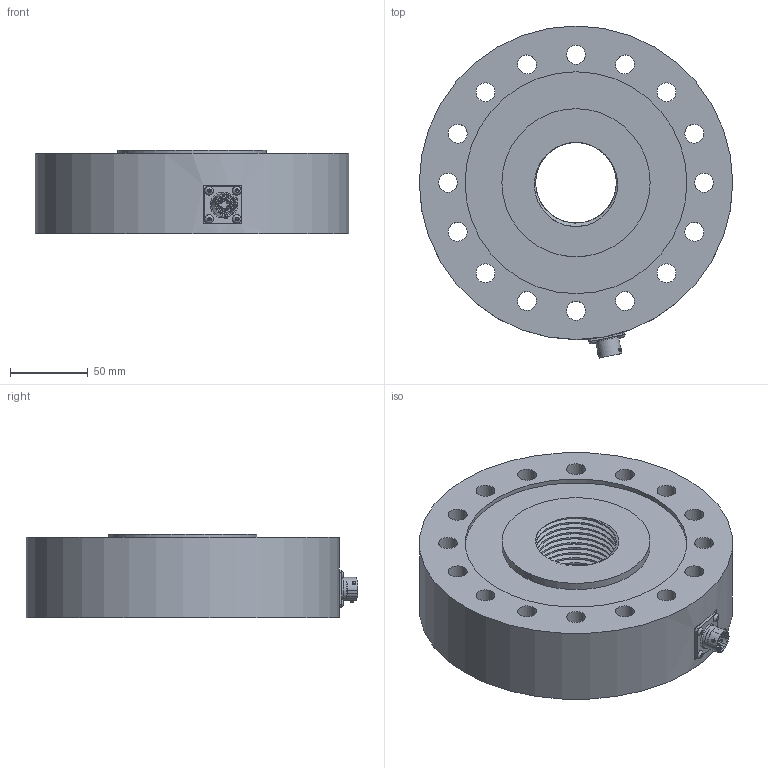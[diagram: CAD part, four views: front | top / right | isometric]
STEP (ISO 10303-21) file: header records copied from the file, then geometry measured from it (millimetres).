
FILE_DESCRIPTION(/* description */ (''),/* implementation_level */ '2;1');
FILE_NAME(/* name */ 'I:/New Datasheets/STEP Models/Pending models/DSCC8/DSCC8.step',/* time_stamp */ '2020-10-02T09:26:01+01:00',/* author */ (''),/* organization */ (''),/* preprocessor_version */ 'ST-DEVELOPER v18.1',/* originating_system */ 'Autodesk Translation Framework v9.3.0.1241',/* authorisation */ '');
FILE_SCHEMA (('AUTOMOTIVE_DESIGN { 1 0 10303 214 3 1 1 }'));
Length unit declared in the file: millimetre
Products named in the file (2): DSCC8 Body; DSCC8 
Assembly tree (1 placements, depth 2):
  DSCC8 Body
    DSCC8 
Bounding box: 202 x 213.88 x 54 mm (x, y, z)
Volume: 1362363.7 mm3; surface area: 146279.6 mm2
Topology: 1 solids, 17 shells, 584 faces, 1437 edges, 938 vertices
Faces by surface type: plane 263, cylinder 161, bspline 81, cone 37, torus 22, sphere 20
Full cylindrical faces by diameter (mm): 1 x3, 1.009 x6, 1.165 x6, 1.2 x6, 1.4 x6, 1.52 x3, 1.6 x3, 2 x12, 2.03 x3, 2.2 x12, 2.529 x4, 3 x4, 3.2 x4, 5 x1, 10.25 x2, 10.9 x1, 11.05 x1, 11.35 x1, 12.2 x16, 12.55 x1, 13.85 x1, 13.9 x1, 14 x1, 14.95 x1, 15 x1, 51.97 x12, 56.446 x12, 95.5 x2, 143 x2, 150 x1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
Entity records: 23522 total; most frequent: CARTESIAN_POINT 10076, ORIENTED_EDGE 2852, DIRECTION 2529, EDGE_CURVE 1426, VERTEX_POINT 936, AXIS2_PLACEMENT_3D 915, EDGE_LOOP 712, LINE 699
